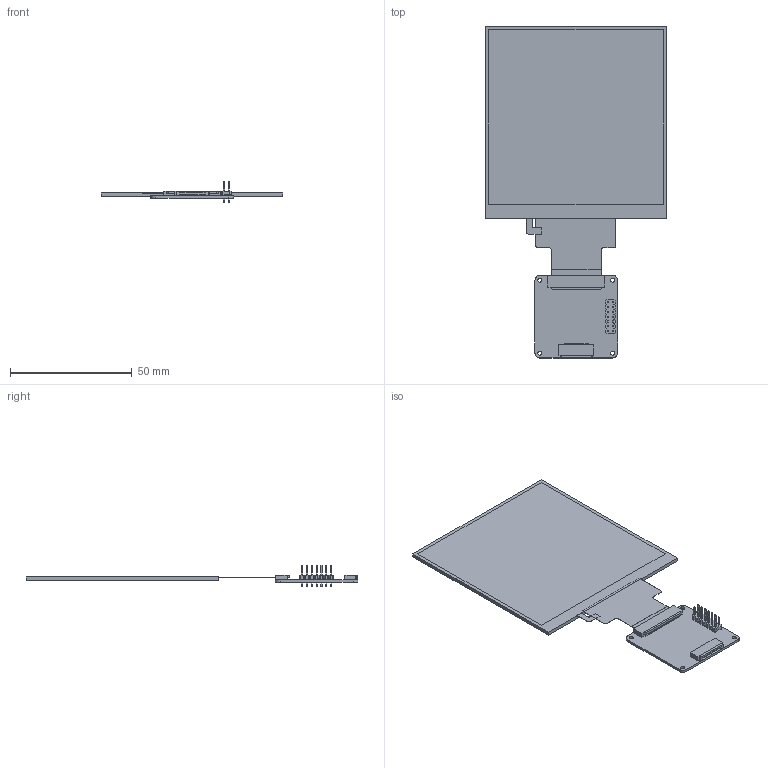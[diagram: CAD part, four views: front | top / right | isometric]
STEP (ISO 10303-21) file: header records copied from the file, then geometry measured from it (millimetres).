
FILE_DESCRIPTION((''),'2;1');
FILE_NAME('TS040HDS02NP-B1620A-V00-241217','2024-12-17T13:39:53',('Shaozi'),(''),'CREO PARAMETRIC BY PTC INC, 2024063','CREO PARAMETRIC BY PTC INC, 2024063','');
FILE_SCHEMA(('AUTOMOTIVE_DESIGN { 1 0 10303 214 1 1 1 1 }'));
Length unit declared in the file: millimetre
Products named in the file (1): TS040HDS02NP-B1620A-V00-241217
Bounding box: 74.83 x 136.55 x 8.8 mm (x, y, z)
Surface area: 17063.4 mm2 (no closed solid volume)
Topology: 0 solids, 7 shells, 337 faces, 969 edges, 650 vertices
Faces by surface type: plane 319, cylinder 18
Entity records: 12882 total; most frequent: CARTESIAN_POINT 1956, ORIENTED_EDGE 1816, DIRECTION 1679, EDGE_CURVE 969, VECTOR 933, LINE 933, VERTEX_POINT 650, EDGE_LOOP 375
